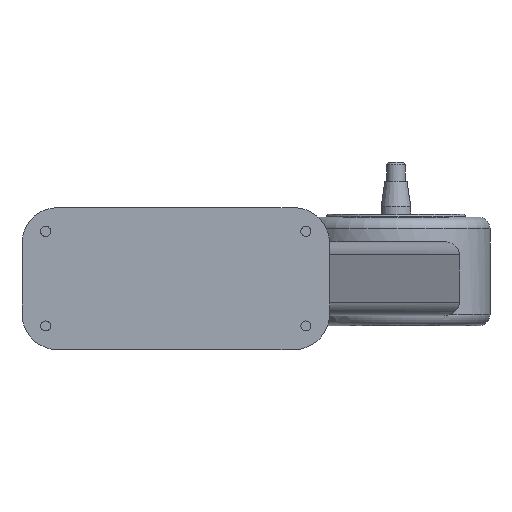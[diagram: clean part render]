
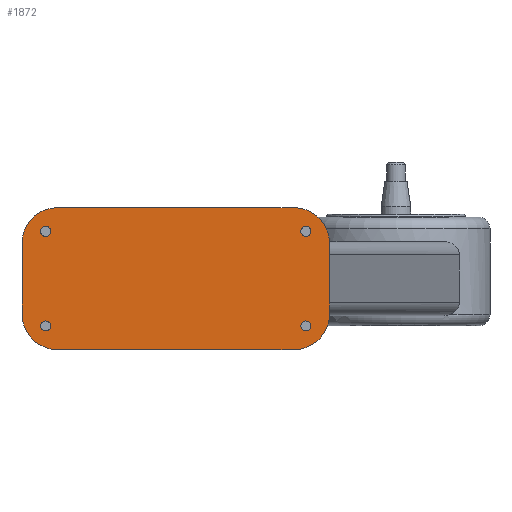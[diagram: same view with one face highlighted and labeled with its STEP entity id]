
A CAD part, front view. The second image highlights one B-rep face of the part: STEP entity #1872.
In plain terms, the highlighted planar face has unit normal (0, -1, 0).
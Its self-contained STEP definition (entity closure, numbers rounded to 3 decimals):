
#10 = VERTEX_POINT ( 'NONE', #1055 ) ;
#24 = ORIENTED_EDGE ( 'NONE', *, *, #2001, .T. ) ;
#46 = CIRCLE ( 'NONE', #429, 30. ) ;
#52 = EDGE_LOOP ( 'NONE', ( #127, #128 ) ) ;
#61 = CARTESIAN_POINT ( 'NONE',  ( 104.051, 0., 60. ) ) ;
#75 = EDGE_LOOP ( 'NONE', ( #1937, #585 ) ) ;
#81 = VERTEX_POINT ( 'NONE', #816 ) ;
#87 = DIRECTION ( 'NONE',  ( 0., -1., 0. ) ) ;
#110 = CIRCLE ( 'NONE', #1970, 30. ) ;
#113 = VERTEX_POINT ( 'NONE', #224 ) ;
#115 = DIRECTION ( 'NONE',  ( 0., 0., -1. ) ) ;
#121 = ORIENTED_EDGE ( 'NONE', *, *, #2088, .T. ) ;
#127 = ORIENTED_EDGE ( 'NONE', *, *, #808, .F. ) ;
#128 = ORIENTED_EDGE ( 'NONE', *, *, #1124, .F. ) ;
#131 = AXIS2_PLACEMENT_3D ( 'NONE', #2306, #1355, #209 ) ;
#140 = DIRECTION ( 'NONE',  ( 0., -1., 0. ) ) ;
#175 = AXIS2_PLACEMENT_3D ( 'NONE', #2081, #1122, #2236 ) ;
#191 = CARTESIAN_POINT ( 'NONE',  ( 114.051, 0., -40. ) ) ;
#209 = DIRECTION ( 'NONE',  ( 1., 0., 0. ) ) ;
#224 = CARTESIAN_POINT ( 'NONE',  ( -125.949, 0., -30. ) ) ;
#234 = VECTOR ( 'NONE', #115, 1000. ) ;
#245 = CARTESIAN_POINT ( 'NONE',  ( -105.949, 0., -40. ) ) ;
#268 = FACE_BOUND ( 'NONE', #52, .T. ) ;
#302 = DIRECTION ( 'NONE',  ( 0., 0., -1. ) ) ;
#348 = ORIENTED_EDGE ( 'NONE', *, *, #1737, .F. ) ;
#364 = CARTESIAN_POINT ( 'NONE',  ( -110.199, 0., -40. ) ) ;
#370 = DIRECTION ( 'NONE',  ( 0., -1., 0. ) ) ;
#400 = EDGE_CURVE ( 'NONE', #2008, #622, #46, .T. ) ;
#403 = DIRECTION ( 'NONE',  ( 1., 0., 0. ) ) ;
#411 = DIRECTION ( 'NONE',  ( 0., -1., 0. ) ) ;
#429 = AXIS2_PLACEMENT_3D ( 'NONE', #466, #1708, #681 ) ;
#441 = VECTOR ( 'NONE', #1471, 1000. ) ;
#448 = VERTEX_POINT ( 'NONE', #1720 ) ;
#465 = DIRECTION ( 'NONE',  ( 1., 0., 0. ) ) ;
#466 = CARTESIAN_POINT ( 'NONE',  ( 104.051, 0., 30. ) ) ;
#485 = CIRCLE ( 'NONE', #892, 4.25 ) ;
#502 = CARTESIAN_POINT ( 'NONE',  ( 118.301, 0., 40. ) ) ;
#518 = CARTESIAN_POINT ( 'NONE',  ( 134.051, 0., 30. ) ) ;
#558 = LINE ( 'NONE', #1792, #2245 ) ;
#577 = DIRECTION ( 'NONE',  ( 1., 0., 0. ) ) ;
#585 = ORIENTED_EDGE ( 'NONE', *, *, #828, .F. ) ;
#611 = AXIS2_PLACEMENT_3D ( 'NONE', #1294, #140, #1466 ) ;
#622 = VERTEX_POINT ( 'NONE', #61 ) ;
#630 = VERTEX_POINT ( 'NONE', #1086 ) ;
#660 = EDGE_CURVE ( 'NONE', #2008, #853, #1703, .T. ) ;
#663 = DIRECTION ( 'NONE',  ( 0., -1., 0. ) ) ;
#681 = DIRECTION ( 'NONE',  ( -1., 0., 0. ) ) ;
#698 = VERTEX_POINT ( 'NONE', #1763 ) ;
#704 = EDGE_CURVE ( 'NONE', #448, #1440, #1274, .T. ) ;
#774 = EDGE_CURVE ( 'NONE', #81, #1963, #1880, .T. ) ;
#789 = EDGE_CURVE ( 'NONE', #698, #622, #558, .T. ) ;
#802 = ORIENTED_EDGE ( 'NONE', *, *, #660, .F. ) ;
#804 = DIRECTION ( 'NONE',  ( 0., -1., 0. ) ) ;
#808 = EDGE_CURVE ( 'NONE', #10, #826, #485, .T. ) ;
#816 = CARTESIAN_POINT ( 'NONE',  ( 109.801, 0., 40. ) ) ;
#826 = VERTEX_POINT ( 'NONE', #364 ) ;
#827 = VECTOR ( 'NONE', #302, 1000. ) ;
#828 = EDGE_CURVE ( 'NONE', #1965, #1687, #1378, .T. ) ;
#847 = FACE_BOUND ( 'NONE', #2250, .T. ) ;
#853 = VERTEX_POINT ( 'NONE', #1320 ) ;
#876 = LINE ( 'NONE', #1280, #234 ) ;
#892 = AXIS2_PLACEMENT_3D ( 'NONE', #1801, #804, #1950 ) ;
#911 = CARTESIAN_POINT ( 'NONE',  ( -110.199, 0., 40. ) ) ;
#957 = AXIS2_PLACEMENT_3D ( 'NONE', #1691, #663, #1856 ) ;
#1013 = AXIS2_PLACEMENT_3D ( 'NONE', #1479, #370, #1636 ) ;
#1017 = EDGE_CURVE ( 'NONE', #1687, #1965, #1180, .T. ) ;
#1055 = CARTESIAN_POINT ( 'NONE',  ( -101.699, 0., -40. ) ) ;
#1078 = ORIENTED_EDGE ( 'NONE', *, *, #789, .F. ) ;
#1082 = ORIENTED_EDGE ( 'NONE', *, *, #400, .T. ) ;
#1086 = CARTESIAN_POINT ( 'NONE',  ( -95.949, 0., -60. ) ) ;
#1105 = ORIENTED_EDGE ( 'NONE', *, *, #1665, .T. ) ;
#1109 = ORIENTED_EDGE ( 'NONE', *, *, #1626, .F. ) ;
#1112 = ORIENTED_EDGE ( 'NONE', *, *, #1482, .T. ) ;
#1122 = DIRECTION ( 'NONE',  ( 0., -1., 0. ) ) ;
#1124 = EDGE_CURVE ( 'NONE', #826, #10, #1457, .T. ) ;
#1130 = ORIENTED_EDGE ( 'NONE', *, *, #1555, .T. ) ;
#1137 = AXIS2_PLACEMENT_3D ( 'NONE', #1260, #87, #1422 ) ;
#1173 = DIRECTION ( 'NONE',  ( 0., -1., 0. ) ) ;
#1180 = CIRCLE ( 'NONE', #131, 4.25 ) ;
#1192 = CIRCLE ( 'NONE', #1137, 30. ) ;
#1229 = DIRECTION ( 'NONE',  ( -1., 0., 0. ) ) ;
#1243 = FACE_BOUND ( 'NONE', #75, .T. ) ;
#1260 = CARTESIAN_POINT ( 'NONE',  ( -95.949, 0., -30. ) ) ;
#1274 = CIRCLE ( 'NONE', #175, 4.25 ) ;
#1280 = CARTESIAN_POINT ( 'NONE',  ( -125.949, 0., 60. ) ) ;
#1294 = CARTESIAN_POINT ( 'NONE',  ( 114.051, 0., 40. ) ) ;
#1300 = CARTESIAN_POINT ( 'NONE',  ( -125.949, 0., -60. ) ) ;
#1320 = CARTESIAN_POINT ( 'NONE',  ( 134.051, 0., -30. ) ) ;
#1322 = CARTESIAN_POINT ( 'NONE',  ( -125.949, 0., 30. ) ) ;
#1323 = AXIS2_PLACEMENT_3D ( 'NONE', #2123, #1173, #2284 ) ;
#1355 = DIRECTION ( 'NONE',  ( 0., -1., 0. ) ) ;
#1378 = CIRCLE ( 'NONE', #1013, 4.25 ) ;
#1422 = DIRECTION ( 'NONE',  ( -1., 0., 0. ) ) ;
#1440 = VERTEX_POINT ( 'NONE', #1933 ) ;
#1448 = CIRCLE ( 'NONE', #957, 4.25 ) ;
#1457 = CIRCLE ( 'NONE', #1840, 4.25 ) ;
#1466 = DIRECTION ( 'NONE',  ( 1., 0., 0. ) ) ;
#1471 = DIRECTION ( 'NONE',  ( 1., 0., 0. ) ) ;
#1479 = CARTESIAN_POINT ( 'NONE',  ( -105.949, 0., 40. ) ) ;
#1482 = EDGE_CURVE ( 'NONE', #630, #1658, #1853, .T. ) ;
#1501 = DIRECTION ( 'NONE',  ( 0., -1., 0. ) ) ;
#1510 = CARTESIAN_POINT ( 'NONE',  ( 104.051, 0., -30. ) ) ;
#1515 = ORIENTED_EDGE ( 'NONE', *, *, #774, .F. ) ;
#1536 = ORIENTED_EDGE ( 'NONE', *, *, #704, .F. ) ;
#1548 = DIRECTION ( 'NONE',  ( 0., -1., 0. ) ) ;
#1555 = EDGE_CURVE ( 'NONE', #698, #2307, #1698, .T. ) ;
#1580 = CARTESIAN_POINT ( 'NONE',  ( 134.051, 0., 60. ) ) ;
#1626 = EDGE_CURVE ( 'NONE', #1440, #448, #2021, .T. ) ;
#1636 = DIRECTION ( 'NONE',  ( 1., 0., 0. ) ) ;
#1648 = AXIS2_PLACEMENT_3D ( 'NONE', #191, #1501, #403 ) ;
#1658 = VERTEX_POINT ( 'NONE', #2131 ) ;
#1665 = EDGE_CURVE ( 'NONE', #1658, #853, #110, .T. ) ;
#1666 = DIRECTION ( 'NONE',  ( -1., 0., 0. ) ) ;
#1668 = FACE_BOUND ( 'NONE', #2229, .T. ) ;
#1687 = VERTEX_POINT ( 'NONE', #2294 ) ;
#1691 = CARTESIAN_POINT ( 'NONE',  ( 114.051, 0., 40. ) ) ;
#1698 = CIRCLE ( 'NONE', #1323, 30. ) ;
#1703 = LINE ( 'NONE', #1580, #827 ) ;
#1708 = DIRECTION ( 'NONE',  ( 0., -1., 0. ) ) ;
#1720 = CARTESIAN_POINT ( 'NONE',  ( 109.801, 0., -40. ) ) ;
#1737 = EDGE_CURVE ( 'NONE', #1963, #81, #1448, .T. ) ;
#1763 = CARTESIAN_POINT ( 'NONE',  ( -95.949, 0., 60. ) ) ;
#1792 = CARTESIAN_POINT ( 'NONE',  ( -125.949, 0., 60. ) ) ;
#1801 = CARTESIAN_POINT ( 'NONE',  ( -105.949, 0., -40. ) ) ;
#1840 = AXIS2_PLACEMENT_3D ( 'NONE', #245, #1548, #465 ) ;
#1853 = LINE ( 'NONE', #1300, #441 ) ;
#1856 = DIRECTION ( 'NONE',  ( 1., 0., 0. ) ) ;
#1872 = ADVANCED_FACE ( 'NONE', ( #268, #1668, #847, #1243, #2089 ), #2029, .F. ) ;
#1880 = CIRCLE ( 'NONE', #611, 4.25 ) ;
#1933 = CARTESIAN_POINT ( 'NONE',  ( 118.301, 0., -40. ) ) ;
#1937 = ORIENTED_EDGE ( 'NONE', *, *, #1017, .F. ) ;
#1950 = DIRECTION ( 'NONE',  ( 1., 0., 0. ) ) ;
#1963 = VERTEX_POINT ( 'NONE', #502 ) ;
#1965 = VERTEX_POINT ( 'NONE', #911 ) ;
#1970 = AXIS2_PLACEMENT_3D ( 'NONE', #1510, #411, #1666 ) ;
#2001 = EDGE_CURVE ( 'NONE', #113, #630, #1192, .T. ) ;
#2008 = VERTEX_POINT ( 'NONE', #518 ) ;
#2021 = CIRCLE ( 'NONE', #1648, 4.25 ) ;
#2029 = PLANE ( 'NONE',  #2035 ) ;
#2035 = AXIS2_PLACEMENT_3D ( 'NONE', #2185, #2180, #1229 ) ;
#2081 = CARTESIAN_POINT ( 'NONE',  ( 114.051, 0., -40. ) ) ;
#2088 = EDGE_CURVE ( 'NONE', #2307, #113, #876, .T. ) ;
#2089 = FACE_OUTER_BOUND ( 'NONE', #2225, .T. ) ;
#2123 = CARTESIAN_POINT ( 'NONE',  ( -95.949, 0., 30. ) ) ;
#2131 = CARTESIAN_POINT ( 'NONE',  ( 104.051, 0., -60. ) ) ;
#2180 = DIRECTION ( 'NONE',  ( 0., 1., 0. ) ) ;
#2185 = CARTESIAN_POINT ( 'NONE',  ( -125.949, 0., 60. ) ) ;
#2225 = EDGE_LOOP ( 'NONE', ( #1112, #1105, #802, #1082, #1078, #1130, #121, #24 ) ) ;
#2229 = EDGE_LOOP ( 'NONE', ( #1109, #1536 ) ) ;
#2236 = DIRECTION ( 'NONE',  ( 1., 0., 0. ) ) ;
#2245 = VECTOR ( 'NONE', #577, 1000. ) ;
#2250 = EDGE_LOOP ( 'NONE', ( #348, #1515 ) ) ;
#2284 = DIRECTION ( 'NONE',  ( -1., 0., 0. ) ) ;
#2294 = CARTESIAN_POINT ( 'NONE',  ( -101.699, 0., 40. ) ) ;
#2306 = CARTESIAN_POINT ( 'NONE',  ( -105.949, 0., 40. ) ) ;
#2307 = VERTEX_POINT ( 'NONE', #1322 ) ;
